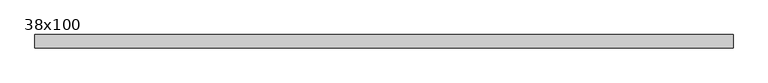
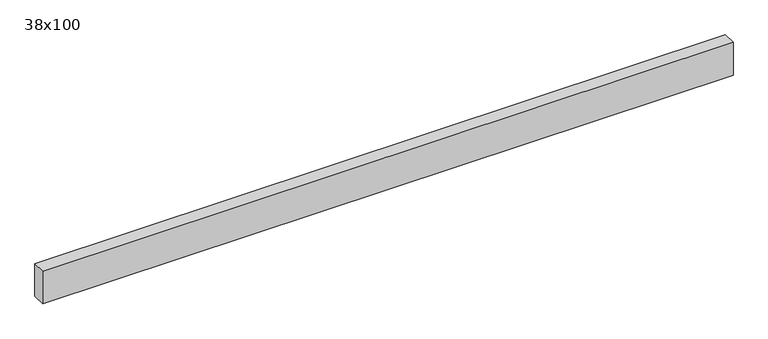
"""IFC4 building model written with IfcOpenShell, lengths in millimetres: beam geometry, Poutre - Bois de construction de dimensions courantes : 38x100."""

from ifc_helpers import new_model, si_unit, frame, origin, place, context, project, spatial, polyline, outline, extrude, source, transform, mapped, element, save


def beam_38x100_6450fd5a(model_context):
    return source(origin(), model_context, "Body", "SweptSolid", [
        extrude(outline(polyline([(976.5, 19.05), (976.5, -19.05), (-1013.5, -19.05), (-1013.5, 19.05), (976.5, 19.05)])), frame((0.0, 0.0, -50.0), z_axis=(0.0, 0.0, 1.0), x_axis=(1.0, 0.0, 0.0)), (0.0, 0.0, 1.0), 100.0),
    ])


if __name__ == "__main__":
    model = new_model("IFC4")
    model_context = context("Model", 3, world=origin())
    ifc_project = project(units=[si_unit("LENGTHUNIT", "METRE", prefix="MILLI")], contexts=[model_context])
    site = spatial("IfcSite", under=ifc_project)
    building = spatial("IfcBuilding", under=site)
    placement = place(None, origin())
    beam_38x100_shape = beam_38x100_6450fd5a(model_context)
    element("IfcBeam", 1, ObjectType="Poutre - Bois de construction de dimensions courantes : 38x100", at=placement, inside=building, context=model_context, shape_type="MappedRepresentation", body=[
        mapped(beam_38x100_shape, transform((0.0, 0.0, 0.0), x_axis=(1.0, 0.0, 0.0), y_axis=(0.0, 1.0, 0.0), z_axis=(0.0, 0.0, 1.0))),
    ])
    save(model, "model.ifc")
